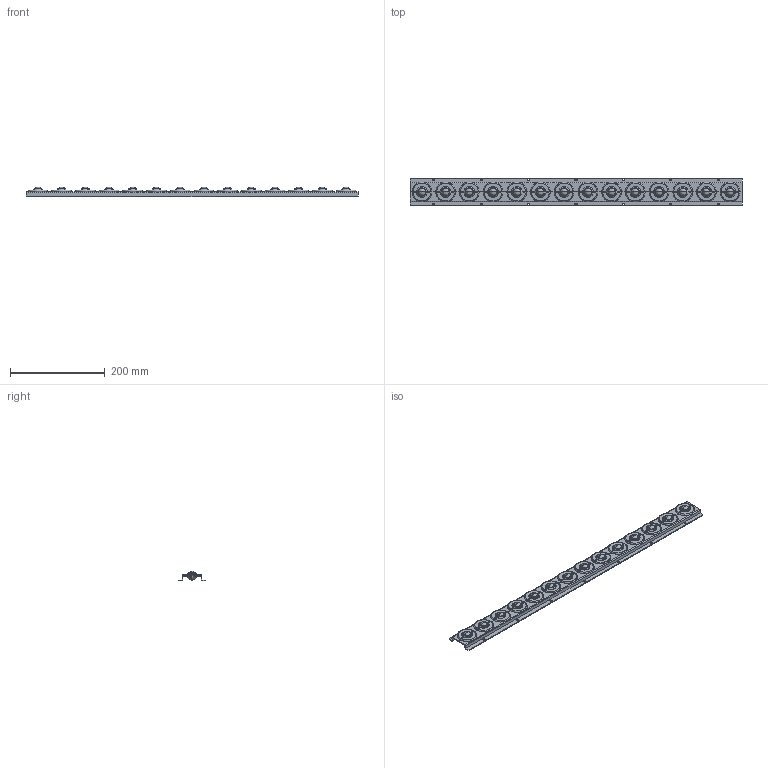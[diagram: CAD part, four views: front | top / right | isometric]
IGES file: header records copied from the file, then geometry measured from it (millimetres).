
Global section: file name: E:\UnigraphicsGraphicData\MISUMI_PRESS-PARTS\IGES\3d_goro-14_03803_r00.igs; native system: NX V5.0; preprocessor: UGS NX IGES V5.0; author: MISUMI; date: 20110105.160721; units: millimetre
Bounding box: 700 x 59 x 21 mm (x, y, z)
Surface area: 122372.9 mm2 (no closed solid volume)
Topology: 0 solids, 0 shells, 360 faces, 2884 edges, 2828 vertices
Faces by surface type: bspline 360
